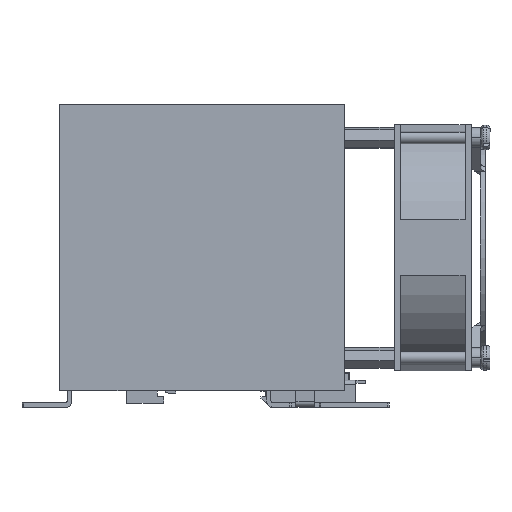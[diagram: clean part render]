
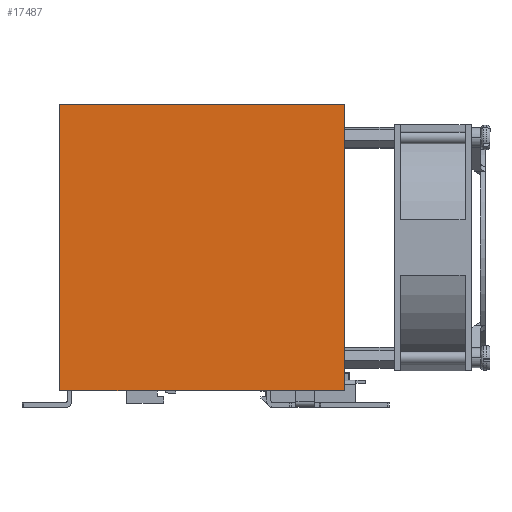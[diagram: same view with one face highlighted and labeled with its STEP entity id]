
A CAD part, left-side view. The second image highlights one B-rep face of the part: STEP entity #17487.
In plain terms, the highlighted planar face has unit normal (-1, 0, 0).
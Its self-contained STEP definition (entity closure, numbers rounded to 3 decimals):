
#3096 = ORIENTED_EDGE ( 'NONE', *, *, #15435, .F. ) ;
#5680 = DIRECTION ( 'NONE',  ( 0., 1., 0. ) ) ;
#6712 = DIRECTION ( 'NONE',  ( 0., 0., 1. ) ) ;
#7235 = VECTOR ( 'NONE', #5680, 1000. ) ;
#8619 = EDGE_CURVE ( 'NONE', #35793, #36876, #37508, .T. ) ;
#9741 = VERTEX_POINT ( 'NONE', #29813 ) ;
#9843 = DIRECTION ( 'NONE',  ( 1., 0., 0. ) ) ;
#10091 = CARTESIAN_POINT ( 'NONE',  ( 0., 139.69, 5.4 ) ) ;
#11362 = CARTESIAN_POINT ( 'NONE',  ( 0., 139.69, 98.4 ) ) ;
#11624 = VECTOR ( 'NONE', #40334, 1000. ) ;
#12910 = ORIENTED_EDGE ( 'NONE', *, *, #8619, .F. ) ;
#15158 = LINE ( 'NONE', #22000, #11624 ) ;
#15435 = EDGE_CURVE ( 'NONE', #9741, #21154, #15158, .T. ) ;
#17487 = ADVANCED_FACE ( 'NONE', ( #38346 ), #28809, .F. ) ;
#20819 = ORIENTED_EDGE ( 'NONE', *, *, #21645, .F. ) ;
#21154 = VERTEX_POINT ( 'NONE', #35354 ) ;
#21645 = EDGE_CURVE ( 'NONE', #36876, #9741, #39345, .T. ) ;
#22000 = CARTESIAN_POINT ( 'NONE',  ( 0., 47.29, 11338.055 ) ) ;
#22537 = DIRECTION ( 'NONE',  ( 0., 1., 0. ) ) ;
#22611 = VECTOR ( 'NONE', #6712, 1000. ) ;
#23330 = CARTESIAN_POINT ( 'NONE',  ( 0., 139.69, 98.4 ) ) ;
#24396 = LINE ( 'NONE', #27931, #7235 ) ;
#24921 = ORIENTED_EDGE ( 'NONE', *, *, #27093, .F. ) ;
#26860 = VECTOR ( 'NONE', #32707, 1000. ) ;
#27093 = EDGE_CURVE ( 'NONE', #21154, #35793, #24396, .T. ) ;
#27931 = CARTESIAN_POINT ( 'NONE',  ( 0., 139.69, 5.4 ) ) ;
#28809 = PLANE ( 'NONE',  #37447 ) ;
#29209 = CARTESIAN_POINT ( 'NONE',  ( 0., 139.69, 98.4 ) ) ;
#29813 = CARTESIAN_POINT ( 'NONE',  ( 0., 47.29, 98.4 ) ) ;
#32707 = DIRECTION ( 'NONE',  ( 0., -1., 0. ) ) ;
#34863 = EDGE_LOOP ( 'NONE', ( #20819, #12910, #24921, #3096 ) ) ;
#35203 = CARTESIAN_POINT ( 'NONE',  ( 0., 139.69, 11338.055 ) ) ;
#35354 = CARTESIAN_POINT ( 'NONE',  ( 0., 47.29, 5.4 ) ) ;
#35793 = VERTEX_POINT ( 'NONE', #10091 ) ;
#36876 = VERTEX_POINT ( 'NONE', #11362 ) ;
#37447 = AXIS2_PLACEMENT_3D ( 'NONE', #29209, #9843, #22537 ) ;
#37508 = LINE ( 'NONE', #35203, #22611 ) ;
#38346 = FACE_OUTER_BOUND ( 'NONE', #34863, .T. ) ;
#39345 = LINE ( 'NONE', #23330, #26860 ) ;
#40334 = DIRECTION ( 'NONE',  ( 0., 0., -1. ) ) ;
